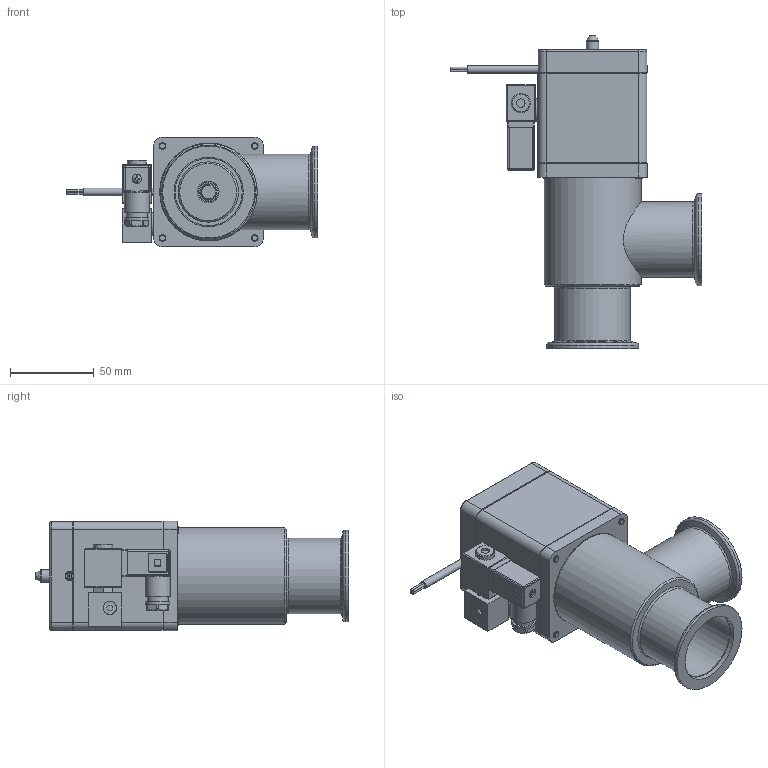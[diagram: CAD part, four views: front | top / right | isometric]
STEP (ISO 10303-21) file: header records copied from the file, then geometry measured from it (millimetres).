
FILE_DESCRIPTION(/* description */ (''),/* implementation_level */ '2;1');
FILE_NAME(/* name */ '1057051855_203.stp',/* time_stamp */ '2013-08-30T07:28:43+02:00',/* author */ (''),/* organization */ (''),/* preprocessor_version */ 'ST-DEVELOPER v11',/* originating_system */ 'SIEMENS PLM Software NX 7.5',/* authorisation */ '');
FILE_SCHEMA (('AP203_CONFIGURATION_CONTROLLED_3D_DESIGN_OF_MECHANICAL_PARTS_AND_ASSEMBLIES_MIM_LF'));
Length unit declared in the file: millimetre
Products named in the file (18): 467882; 437235; 244091.2; 239888_6.1; 233232; 236208.2; 236204_1.1; 240513.1; 240512.10; 240511.9; 243875.2; 239737.6; 240792.1; n-8501-400.2_MODELNX-ARRAGMNTArrangement 1; 443457; 402933; 240510.14; 701833
Assembly tree (22 placements, depth 4):
  701833
    240792.1  x4
    239737.6
    240510.14
      240511.9
      240512.10
      240513.1
    243875.2
    402933
      236204_1.1  x2
      236208.2  x2
      233232
      239888_6.1
    443457
      244091.2
      n-8501-400.2_MODELNX-ARRAGMNTArrangement 1
        437235
        467882
Bounding box: 149.82 x 186.79 x 65.4 mm (x, y, z)
Volume: 251279.3 mm3; surface area: 143044 mm2
Topology: 27 solids, 28 shells, 905 faces, 2221 edges, 1448 vertices
Faces by surface type: plane 556, cylinder 208, cone 94, bspline 22, torus 18, sphere 7
Full cylindrical faces by diameter (mm): 1.4 x8, 2 x7, 2.2 x4, 2.5 x6, 2.8 x1, 2.95 x1, 3 x8, 3.26 x4, 3.3 x4, 4 x12, 4.22 x1, 4.5 x5, 4.6 x2, 4.7 x3, 5 x4, 5.5 x1, 5.6 x2, 7 x4, 7.4 x2, 7.6 x1, 7.9 x1, 8 x8, 9.1 x1, 10 x1, 10.2 x1, 11.3 x1, 11.4 x1, 11.5 x1, 11.975 x3, 12.012 x1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
Entity records: 27633 total; most frequent: CARTESIAN_POINT 5631, DIRECTION 3776, ORIENTED_EDGE 3502, EDGE_CURVE 1751, AXIS2_PLACEMENT_3D 1323, VERTEX_POINT 1258, LINE 1130, VECTOR 1130
